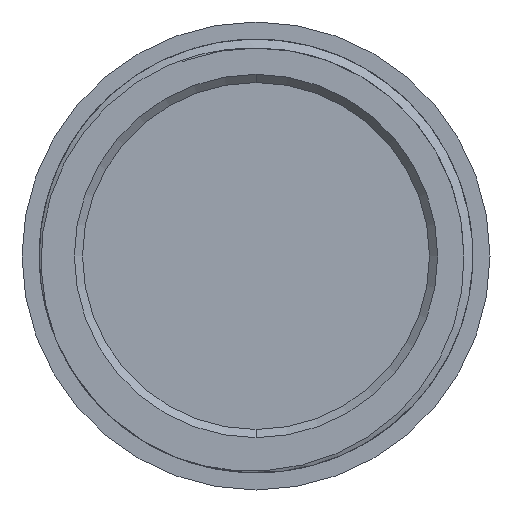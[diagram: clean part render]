
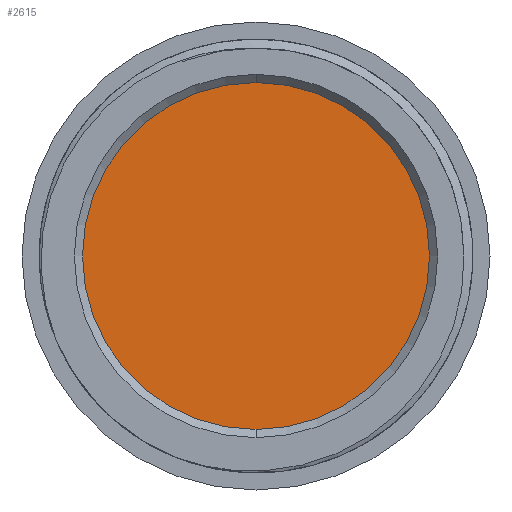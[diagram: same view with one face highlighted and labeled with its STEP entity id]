
A CAD part, front view. The second image highlights one B-rep face of the part: STEP entity #2615.
In plain terms, the highlighted planar face has unit normal (0, -1, 0).
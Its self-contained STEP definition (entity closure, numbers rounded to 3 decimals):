
#290 = AXIS2_PLACEMENT_3D ( 'NONE', #1556, #409, #1393 ) ;
#392 = CIRCLE ( 'NONE', #2169, 6.05 ) ;
#409 = DIRECTION ( 'NONE',  ( 0., 1., 0. ) ) ;
#763 = EDGE_CURVE ( 'NONE', #2824, #1935, #2264, .T. ) ;
#985 = EDGE_LOOP ( 'NONE', ( #1587, #3014 ) ) ;
#1054 = EDGE_CURVE ( 'NONE', #1935, #2824, #392, .T. ) ;
#1393 = DIRECTION ( 'NONE',  ( 0., 0., 1. ) ) ;
#1511 = CARTESIAN_POINT ( 'NONE',  ( 0., 2.3, -6.05 ) ) ;
#1523 = CARTESIAN_POINT ( 'NONE',  ( 0., 2.3, 0. ) ) ;
#1556 = CARTESIAN_POINT ( 'NONE',  ( 0., 2.3, 0. ) ) ;
#1587 = ORIENTED_EDGE ( 'NONE', *, *, #763, .F. ) ;
#1935 = VERTEX_POINT ( 'NONE', #2582 ) ;
#1978 = CARTESIAN_POINT ( 'NONE',  ( 0., 2.3, 0. ) ) ;
#2169 = AXIS2_PLACEMENT_3D ( 'NONE', #1523, #2943, #2687 ) ;
#2264 = CIRCLE ( 'NONE', #2664, 6.05 ) ;
#2276 = FACE_OUTER_BOUND ( 'NONE', #985, .T. ) ;
#2338 = PLANE ( 'NONE',  #290 ) ;
#2522 = DIRECTION ( 'NONE',  ( 0., 1., 0. ) ) ;
#2582 = CARTESIAN_POINT ( 'NONE',  ( 0., 2.3, 6.05 ) ) ;
#2615 = ADVANCED_FACE ( 'NONE', ( #2276 ), #2338, .F. ) ;
#2664 = AXIS2_PLACEMENT_3D ( 'NONE', #1978, #2522, #2725 ) ;
#2687 = DIRECTION ( 'NONE',  ( 0., 0., 1. ) ) ;
#2725 = DIRECTION ( 'NONE',  ( 0., 0., 1. ) ) ;
#2824 = VERTEX_POINT ( 'NONE', #1511 ) ;
#2943 = DIRECTION ( 'NONE',  ( 0., 1., 0. ) ) ;
#3014 = ORIENTED_EDGE ( 'NONE', *, *, #1054, .F. ) ;
